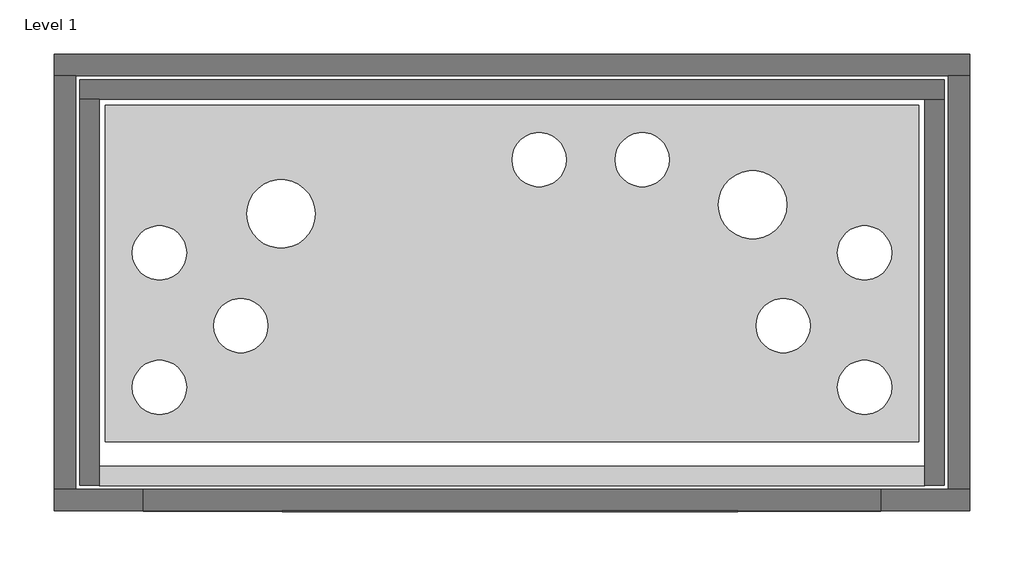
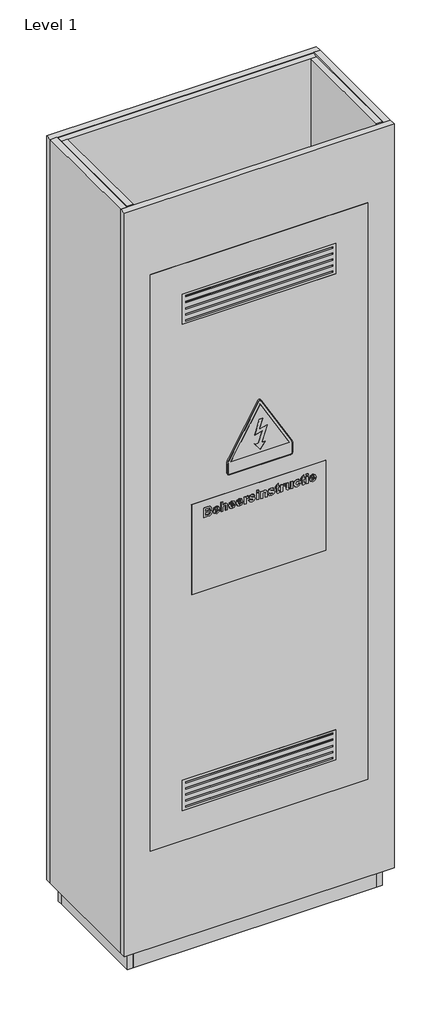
# One storey: 1 proxy.
"""IFC4 building model written with IfcOpenShell, lengths in millimetres."""

from ifc_helpers import new_model, si_unit, origin, place, context, project, spatial, transform, mapped, element, save
from components import generic_models_31848814

model = new_model("IFC4")

# Units and contexts
model_context = context("Model", 3, world=origin())
ifc_project = project(units=[si_unit("LENGTHUNIT", "METRE", prefix="MILLI")], contexts=[model_context])

# Site, building, storey
site = spatial("IfcSite", under=ifc_project)
building = spatial("IfcBuilding", under=site)
storey = spatial("IfcBuildingStorey", under=building, Name="Level 1", Elevation=0.0)

# Proxy
placement = place(None, origin())
generic_models_shape = generic_models_31848814(model_context)
element("IfcBuildingElementProxy", 1, Name="Prefab meterkast : Prefab meterkast", ObjectType="Prefab meterkast : Prefab meterkast", at=placement, inside=storey, context=model_context, shape_type="MappedRepresentation", body=[
    mapped(generic_models_shape, transform((0.0, 0.0, 0.0), x_axis=(1.0, 0.0, 0.0), y_axis=(0.0, 1.0, 0.0), z_axis=(0.0, 0.0, 1.0))),
])

save(model, "model.ifc")
